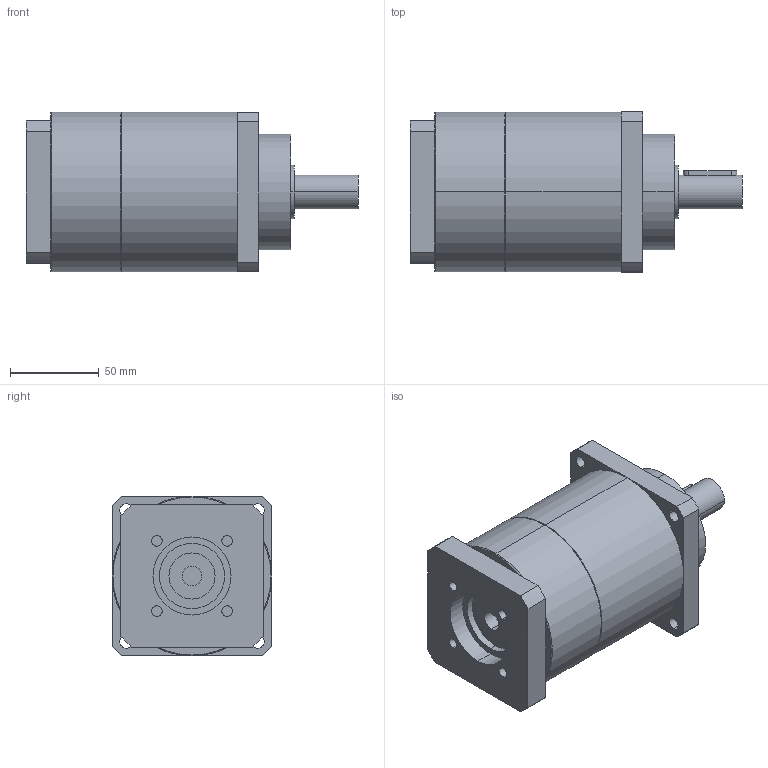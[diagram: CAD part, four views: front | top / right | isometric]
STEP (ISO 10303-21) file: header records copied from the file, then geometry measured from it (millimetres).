
FILE_DESCRIPTION(('CoCreate Modeling STEP Export'),'2;1');
FILE_NAME('GPT90_ig-9-12-16-20-25-28-35-40-50-70-100_19_B5T_11_P31.stp','2015-02-04T11:24:44',(''),(''),'CoCreate Modeling STEP processor for AP214 (Solid Model)','CoCreate Modeling 16.00C 25-Feb-2009 (C) Parametric Technology GmbH','');
FILE_SCHEMA(('AUTOMOTIVE_DESIGN { 1 0 10303 214 1 1 1 1 }'));
Length unit declared in the file: millimetre
Products named in the file (2): GPT90_ig-9-12-16-20-25-28-35-40-50-70-100_19_B5T_11_P31
Assembly tree (1 placements, depth 2):
  GPT90_ig-9-12-16-20-25-28-35-40-50-70-100_19_B5T_11_P31
    GPT90_ig-9-12-16-20-25-28-35-40-50-70-100_19_B5T_11_P31
Bounding box: 187 x 90 x 90 mm (x, y, z)
Volume: 899840.2 mm3; surface area: 67126.2 mm2
Topology: 1 solids, 1 shells, 88 faces, 221 edges, 148 vertices
Faces by surface type: cylinder 46, plane 38, cone 4
Entity records: 2699 total; most frequent: CARTESIAN_POINT 754, ORIENTED_EDGE 442, DIRECTION 330, EDGE_CURVE 221, VERTEX_POINT 148, AXIS2_PLACEMENT_3D 121, EDGE_LOOP 109, VECTOR 88
